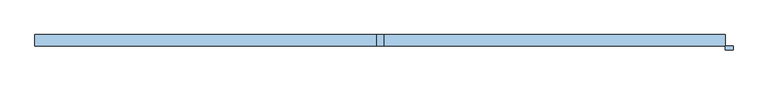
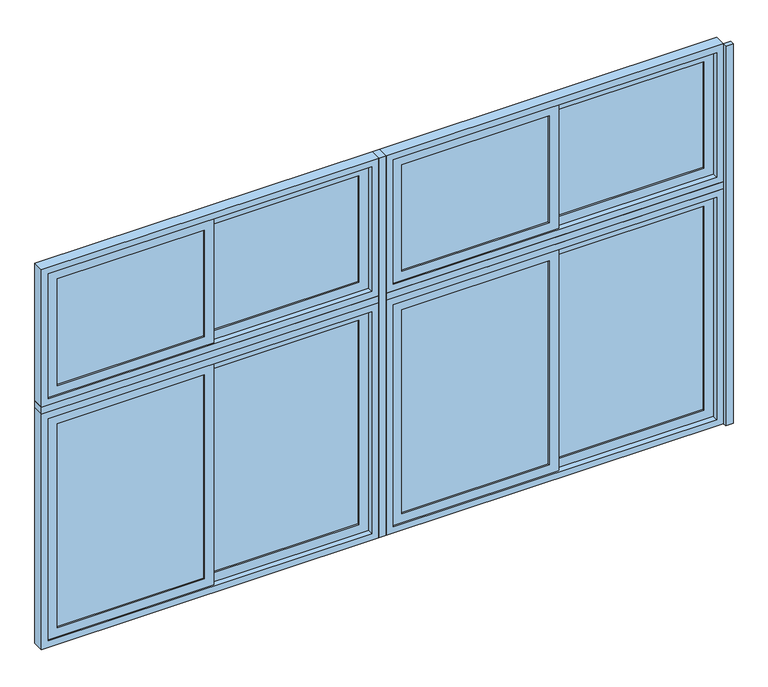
"""IFC4 building model written with IfcOpenShell, lengths in millimetres: window geometry, A12 Ventana_Corrediza_PC_4 hojas AP : A12.1 Ventana_Corrediza_PC_4 hojas 450x265 AP45."""

from ifc_helpers import new_model, si_unit, frame, origin, place, context, project, spatial, polyline, outline, extrude, source, transform, mapped, element, save


def window_82c0303f(model_context):
    return source(origin(), model_context, "Body", "SweptSolid", [
        extrude(outline(polyline([(-1169.0, -92.0), (-2142.0, -92.0), (-2142.0, -86.0), (-1169.0, -86.0), (-1169.0, -92.0)])), frame((0.0, 0.0, 2308.0), z_axis=(0.0, 0.0, 1.0), x_axis=(1.0, 0.0, 0.0)), (0.0, 0.0, 1.0), 744.0),
        extrude(outline(polyline([(-1169.0, -92.0), (-2142.0, -92.0), (-2142.0, -86.0), (-1169.0, -86.0), (-1169.0, -92.0)])), frame((0.0, 0.0, 618.0), z_axis=(0.0, 0.0, 1.0), x_axis=(1.0, 0.0, 0.0)), (0.0, 0.0, 1.0), 1424.0),
        extrude(outline(polyline([(-133.0, -64.0), (-1106.0, -64.0), (-1106.0, -58.0), (-133.0, -58.0), (-133.0, -64.0)])), frame((0.0, 0.0, 2308.0), z_axis=(0.0, 0.0, 1.0), x_axis=(1.0, 0.0, 0.0)), (0.0, 0.0, 1.0), 744.0),
        extrude(outline(polyline([(-133.0, -64.0), (-1106.0, -64.0), (-1106.0, -58.0), (-133.0, -58.0), (-133.0, -64.0)])), frame((0.0, 0.0, 618.0), z_axis=(0.0, 0.0, 1.0), x_axis=(1.0, 0.0, 0.0)), (0.0, 0.0, 1.0), 1424.0),
        extrude(outline(polyline([(3115.0, -2205.0), (2245.0, -2205.0), (2245.0, -1106.0), (3115.0, -1106.0), (3115.0, -2205.0)]), holes=[polyline([(3052.0, -2142.0), (3052.0, -1169.0), (2308.0, -1169.0), (2308.0, -2142.0), (3052.0, -2142.0)])]), frame((0.0, -103.0, 0.0), z_axis=(0.0, 1.0, 0.0), x_axis=(0.0, 0.0, 1.0)), (0.0, 0.0, 1.0), 28.0),
        extrude(outline(polyline([(2105.0, -2205.0), (555.0, -2205.0), (555.0, -1106.0), (2105.0, -1106.0), (2105.0, -2205.0)]), holes=[polyline([(2042.0, -2142.0), (2042.0, -1169.0), (618.0, -1169.0), (618.0, -2142.0), (2042.0, -2142.0)])]), frame((0.0, -103.0, 0.0), z_axis=(0.0, 1.0, 0.0), x_axis=(0.0, 0.0, 1.0)), (0.0, 0.0, 1.0), 28.0),
        extrude(outline(polyline([(3115.0, -1169.0), (2245.0, -1169.0), (2245.0, -70.0), (3115.0, -70.0), (3115.0, -1169.0)]), holes=[polyline([(3052.0, -1106.0), (3052.0, -133.0), (2308.0, -133.0), (2308.0, -1106.0), (3052.0, -1106.0)])]), frame((0.0, -75.0, 0.0), z_axis=(0.0, 1.0, 0.0), x_axis=(0.0, 0.0, 1.0)), (0.0, 0.0, 1.0), 28.0),
        extrude(outline(polyline([(2105.0, -1169.0), (555.0, -1169.0), (555.0, -70.0), (2105.0, -70.0), (2105.0, -1169.0)]), holes=[polyline([(2042.0, -1106.0), (2042.0, -133.0), (618.0, -133.0), (618.0, -1106.0), (2042.0, -1106.0)])]), frame((0.0, -75.0, 0.0), z_axis=(0.0, 1.0, 0.0), x_axis=(0.0, 0.0, 1.0)), (0.0, 0.0, 1.0), 28.0),
        extrude(outline(polyline([(1106.0, -92.0), (133.0, -92.0), (133.0, -86.0), (1106.0, -86.0), (1106.0, -92.0)])), frame((0.0, 0.0, 2308.0), z_axis=(0.0, 0.0, 1.0), x_axis=(1.0, 0.0, 0.0)), (0.0, 0.0, 1.0), 744.0),
        extrude(outline(polyline([(1106.0, -92.0), (133.0, -92.0), (133.0, -86.0), (1106.0, -86.0), (1106.0, -92.0)])), frame((0.0, 0.0, 618.0), z_axis=(0.0, 0.0, 1.0), x_axis=(1.0, 0.0, 0.0)), (0.0, 0.0, 1.0), 1424.0),
        extrude(outline(polyline([(2142.0, -64.0), (1169.0, -64.0), (1169.0, -58.0), (2142.0, -58.0), (2142.0, -64.0)])), frame((0.0, 0.0, 2308.0), z_axis=(0.0, 0.0, 1.0), x_axis=(1.0, 0.0, 0.0)), (0.0, 0.0, 1.0), 744.0),
        extrude(outline(polyline([(2142.0, -64.0), (1169.0, -64.0), (1169.0, -58.0), (2142.0, -58.0), (2142.0, -64.0)])), frame((0.0, 0.0, 618.0), z_axis=(0.0, 0.0, 1.0), x_axis=(1.0, 0.0, 0.0)), (0.0, 0.0, 1.0), 1424.0),
        extrude(outline(polyline([(555.0, 70.0), (555.0, 1169.0), (2105.0, 1169.0), (2105.0, 70.0), (555.0, 70.0)]), holes=[polyline([(618.0, 133.0), (2042.0, 133.0), (2042.0, 1106.0), (618.0, 1106.0), (618.0, 133.0)])]), frame((0.0, -103.0, 0.0), z_axis=(0.0, 1.0, 0.0), x_axis=(0.0, 0.0, 1.0)), (0.0, 0.0, 1.0), 28.0),
        extrude(outline(polyline([(3115.0, 70.0), (2245.0, 70.0), (2245.0, 1169.0), (3115.0, 1169.0), (3115.0, 70.0)]), holes=[polyline([(2308.0, 133.0), (3052.0, 133.0), (3052.0, 1106.0), (2308.0, 1106.0), (2308.0, 133.0)])]), frame((0.0, -103.0, 0.0), z_axis=(0.0, 1.0, 0.0), x_axis=(0.0, 0.0, 1.0)), (0.0, 0.0, 1.0), 28.0),
        extrude(outline(polyline([(2105.0, 2205.0), (2105.0, 1106.0), (555.0, 1106.0), (555.0, 2205.0), (2105.0, 2205.0)]), holes=[polyline([(2042.0, 1169.0), (2042.0, 2142.0), (618.0, 2142.0), (618.0, 1169.0), (2042.0, 1169.0)])]), frame((0.0, -75.0, 0.0), z_axis=(0.0, 1.0, 0.0), x_axis=(0.0, 0.0, 1.0)), (0.0, 0.0, 1.0), 28.0),
        extrude(outline(polyline([(2245.0, 1106.0), (2245.0, 2205.0), (3115.0, 2205.0), (3115.0, 1106.0), (2245.0, 1106.0)]), holes=[polyline([(3052.0, 1169.0), (3052.0, 2142.0), (2308.0, 2142.0), (2308.0, 1169.0), (3052.0, 1169.0)])]), frame((0.0, -75.0, 0.0), z_axis=(0.0, 1.0, 0.0), x_axis=(0.0, 0.0, 1.0)), (0.0, 0.0, 1.0), 28.0),
        extrude(outline(polyline([(2150.0, 25.0), (510.0, 25.0), (510.0, 2250.0), (2150.0, 2250.0), (2150.0, 25.0)]), holes=[polyline([(2105.0, 70.0), (2105.0, 2205.0), (555.0, 2205.0), (555.0, 70.0), (2105.0, 70.0)])]), frame((0.0, -112.5, 0.0), z_axis=(0.0, 1.0, 0.0), x_axis=(0.0, 0.0, 1.0)), (0.0, 0.0, 1.0), 75.0),
        extrude(outline(polyline([(2150.0, -2250.0), (510.0, -2250.0), (510.0, -25.0), (2150.0, -25.0), (2150.0, -2250.0)]), holes=[polyline([(2105.0, -2205.0), (2105.0, -70.0), (555.0, -70.0), (555.0, -2205.0), (2105.0, -2205.0)])]), frame((0.0, -112.5, 0.0), z_axis=(0.0, 1.0, 0.0), x_axis=(0.0, 0.0, 1.0)), (0.0, 0.0, 1.0), 75.0),
        extrude(outline(polyline([(3160.0, 25.0), (2200.0, 25.0), (2200.0, 2250.0), (3160.0, 2250.0), (3160.0, 25.0)]), holes=[polyline([(3115.0, 70.0), (3115.0, 2205.0), (2245.0, 2205.0), (2245.0, 70.0), (3115.0, 70.0)])]), frame((0.0, -112.5, 0.0), z_axis=(0.0, 1.0, 0.0), x_axis=(0.0, 0.0, 1.0)), (0.0, 0.0, 1.0), 75.0),
        extrude(outline(polyline([(2200.0, -2250.0), (2200.0, -25.0), (3160.0, -25.0), (3160.0, -2250.0), (2200.0, -2250.0)]), holes=[polyline([(3115.0, -2205.0), (3115.0, -70.0), (2245.0, -70.0), (2245.0, -2205.0), (3115.0, -2205.0)])]), frame((0.0, -112.5, 0.0), z_axis=(0.0, 1.0, 0.0), x_axis=(0.0, 0.0, 1.0)), (0.0, 0.0, 1.0), 75.0),
        extrude(outline(polyline([(2250.0, -112.5), (25.0, -112.5), (25.0, -37.5), (2250.0, -37.5), (2250.0, -112.5)])), frame((0.0, 0.0, 2150.0), z_axis=(0.0, 0.0, 1.0), x_axis=(1.0, 0.0, 0.0)), (0.0, 0.0, 1.0), 50.0),
        extrude(outline(polyline([(-25.0, -112.5), (-2250.0, -112.5), (-2250.0, -37.5), (-25.0, -37.5), (-25.0, -112.5)])), frame((0.0, 0.0, 2150.0), z_axis=(0.0, 0.0, 1.0), x_axis=(1.0, 0.0, 0.0)), (0.0, 0.0, 1.0), 50.0),
        extrude(outline(polyline([(25.0, -112.5), (-25.0, -112.5), (-25.0, -37.5), (25.0, -37.5), (25.0, -112.5)])), frame((0.0, 0.0, 510.0), z_axis=(0.0, 0.0, 1.0), x_axis=(1.0, 0.0, 0.0)), (0.0, 0.0, 1.0), 2650.0),
        extrude(outline(polyline([(2300.0, -137.5), (2250.0, -137.5), (2250.0, -112.5), (2300.0, -112.5), (2300.0, -137.5)])), frame((0.0, 0.0, 510.0), z_axis=(0.0, 0.0, 1.0), x_axis=(1.0, 0.0, 0.0)), (0.0, 0.0, 1.0), 2650.0),
    ])


if __name__ == "__main__":
    model = new_model("IFC4")
    model_context = context("Model", 3, world=origin())
    ifc_project = project(units=[si_unit("LENGTHUNIT", "METRE", prefix="MILLI")], contexts=[model_context])
    site = spatial("IfcSite", under=ifc_project)
    building = spatial("IfcBuilding", under=site)
    placement = place(None, origin())
    window_shape = window_82c0303f(model_context)
    element("IfcWindow", 1, ObjectType="A12 Ventana_Corrediza_PC_4 hojas AP : A12.1 Ventana_Corrediza_PC_4 hojas 450x265 AP45", at=placement, inside=building, context=model_context, shape_type="MappedRepresentation", body=[
        mapped(window_shape, transform((0.0, 0.0, 0.0), x_axis=(1.0, 0.0, 0.0), y_axis=(0.0, 1.0, 0.0), z_axis=(0.0, 0.0, 1.0))),
    ])
    save(model, "model.ifc")
